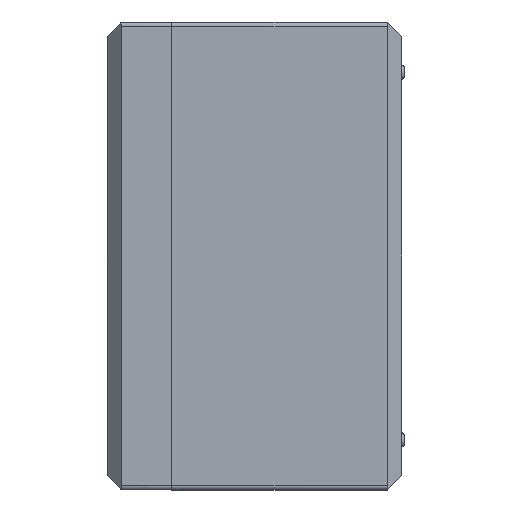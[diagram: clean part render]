
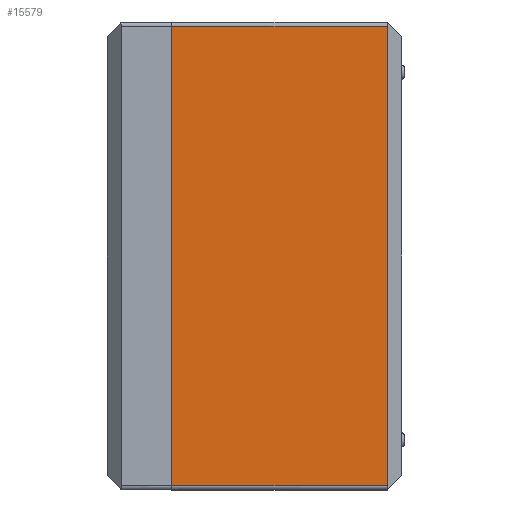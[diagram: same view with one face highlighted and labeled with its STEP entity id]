
A CAD part, left-side view. The second image highlights one B-rep face of the part: STEP entity #15579.
In plain terms, the highlighted planar face has unit normal (-1, 0, 0).
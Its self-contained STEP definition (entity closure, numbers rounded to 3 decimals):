
#29 = VERTEX_POINT ( 'NONE', #10233 ) ;
#1434 = EDGE_CURVE ( 'NONE', #2234, #15001, #15516, .T. ) ;
#1556 = ORIENTED_EDGE ( 'NONE', *, *, #5441, .F. ) ;
#1908 = VECTOR ( 'NONE', #17820, 1000. ) ;
#2234 = VERTEX_POINT ( 'NONE', #17035 ) ;
#2477 = PLANE ( 'NONE',  #5282 ) ;
#3213 = VERTEX_POINT ( 'NONE', #18768 ) ;
#3499 = ORIENTED_EDGE ( 'NONE', *, *, #14754, .T. ) ;
#3522 = FACE_OUTER_BOUND ( 'NONE', #11391, .T. ) ;
#4295 = ORIENTED_EDGE ( 'NONE', *, *, #1434, .T. ) ;
#4629 = CARTESIAN_POINT ( 'NONE',  ( -100., -51.5, -55. ) ) ;
#5282 = AXIS2_PLACEMENT_3D ( 'NONE', #9894, #15888, #6985 ) ;
#5441 = EDGE_CURVE ( 'NONE', #2234, #29, #5884, .T. ) ;
#5884 = LINE ( 'NONE', #16408, #1908 ) ;
#5986 = DIRECTION ( 'NONE',  ( 0., 1., 0. ) ) ;
#6062 = CARTESIAN_POINT ( 'NONE',  ( -100., -55., -55. ) ) ;
#6985 = DIRECTION ( 'NONE',  ( 0., 0., 1. ) ) ;
#7290 = VECTOR ( 'NONE', #5986, 1000. ) ;
#7425 = VECTOR ( 'NONE', #9890, 1000. ) ;
#7904 = DIRECTION ( 'NONE',  ( 0., -1., 0. ) ) ;
#9890 = DIRECTION ( 'NONE',  ( 0., 0., 1. ) ) ;
#9894 = CARTESIAN_POINT ( 'NONE',  ( -100., -55., -56. ) ) ;
#10233 = CARTESIAN_POINT ( 'NONE',  ( -100., 0., 55. ) ) ;
#11391 = EDGE_LOOP ( 'NONE', ( #1556, #4295, #3499, #15101 ) ) ;
#11455 = CARTESIAN_POINT ( 'NONE',  ( -100., -51.5, 56. ) ) ;
#11786 = EDGE_CURVE ( 'NONE', #3213, #29, #15178, .T. ) ;
#13380 = CARTESIAN_POINT ( 'NONE',  ( -100., -55., 55. ) ) ;
#14374 = LINE ( 'NONE', #11455, #7425 ) ;
#14754 = EDGE_CURVE ( 'NONE', #15001, #3213, #14374, .T. ) ;
#15001 = VERTEX_POINT ( 'NONE', #4629 ) ;
#15101 = ORIENTED_EDGE ( 'NONE', *, *, #11786, .T. ) ;
#15178 = LINE ( 'NONE', #13380, #7290 ) ;
#15516 = LINE ( 'NONE', #6062, #18510 ) ;
#15579 = ADVANCED_FACE ( 'NONE', ( #3522 ), #2477, .T. ) ;
#15888 = DIRECTION ( 'NONE',  ( -1., 0., 0. ) ) ;
#16408 = CARTESIAN_POINT ( 'NONE',  ( -100., 0., -56. ) ) ;
#17035 = CARTESIAN_POINT ( 'NONE',  ( -100., 0., -55. ) ) ;
#17820 = DIRECTION ( 'NONE',  ( 0., 0., 1. ) ) ;
#18510 = VECTOR ( 'NONE', #7904, 1000. ) ;
#18768 = CARTESIAN_POINT ( 'NONE',  ( -100., -51.5, 55. ) ) ;
